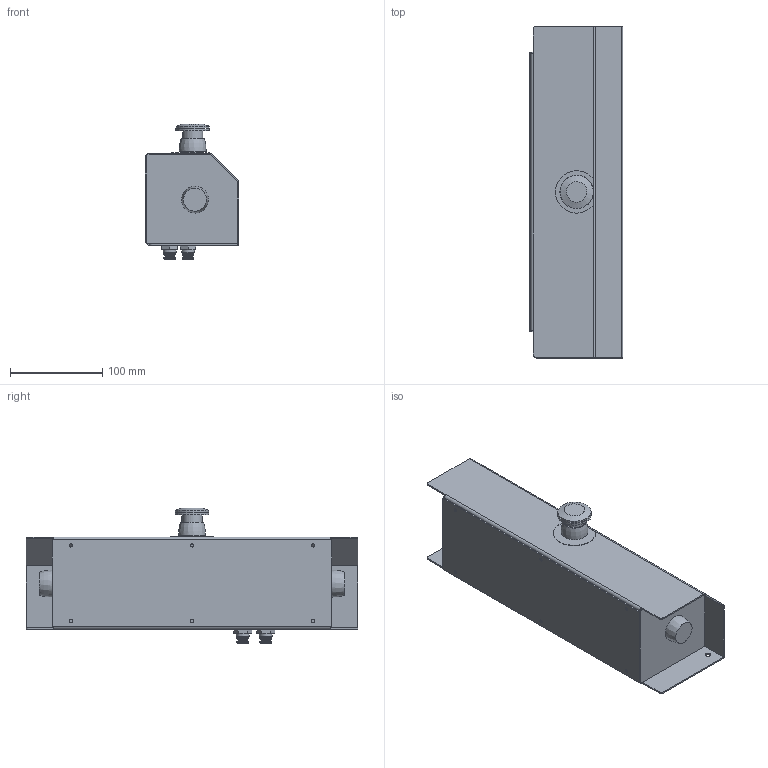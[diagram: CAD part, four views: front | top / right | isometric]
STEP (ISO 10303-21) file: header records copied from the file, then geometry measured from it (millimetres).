
FILE_DESCRIPTION(/* description */ ('Unknown'),/* implementation_level */ '2;1');
FILE_NAME(/* name */ 'KKI-04-000',/* time_stamp */ '2024-03-27T10:28:08+01:00',/* author */ ('Unknown'),/* organization */ ('HAFNER Pneumatika Kft.'),/* preprocessor_version */ 'ST-DEVELOPER v18.102',/* originating_system */ 'Solid Edge',/* authorisation */ 'Unknown');
FILE_SCHEMA (('AUTOMOTIVE_DESIGN {1 0 10303 214 3 1 1}'));
Length unit declared in the file: millimetre
Products named in the file (2): KKI-04-000
Assembly tree (1 placements, depth 2):
  KKI-04-000
    KKI-04-000
Bounding box: 101.5 x 360 x 147.4 mm (x, y, z)
Volume: 42636.4 mm3; surface area: 308962.5 mm2
Topology: 1 solids, 53 shells, 252 faces, 934 edges, 723 vertices
Faces by surface type: plane 89, cone 76, cylinder 69, torus 15, bspline 3
Full cylindrical faces by diameter (mm): 3.5 x12, 5.5 x2, 6.2 x3, 8 x3, 9.5 x3, 11.5 x6, 12.5 x12, 14 x6, 14.5 x1, 22 x3, 27.2 x1, 36 x1, 36.4 x1
Entity records: 10906 total; most frequent: CARTESIAN_POINT 3545, DIRECTION 1173, ORIENTED_EDGE 1123, EDGE_CURVE 798, VERTEX_POINT 693, AXIS2_PLACEMENT_3D 508, EDGE_LOOP 426, FACE_BOUND 426
